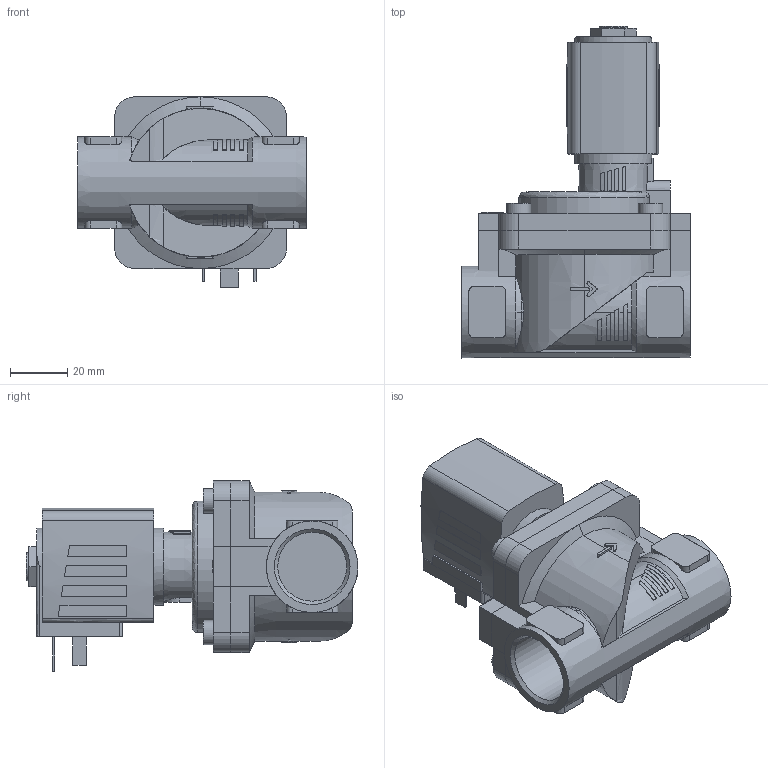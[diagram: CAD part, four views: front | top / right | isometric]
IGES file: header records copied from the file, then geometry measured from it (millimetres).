
Start section: Data from Parasolid IGES Translator 26.0.171, Copyright(c) 2006 Siemens PLM Software. All Rights Reserved.
Global section: file name: 6281-349581-2_2-Way_Solenoid_Valve__Servo-assisted__General_Purpose.igs; native system: By Siemens PLM Incorporated; preprocessor: XPlus GENERIC/IGES 26.0.171; author: Noname; organization: Noname; date: 20240820.171146; units: millimetre
Bounding box: 80 x 116 x 66.5 mm (x, y, z)
Surface area: 42231.7 mm2 (no closed solid volume)
Topology: 0 solids, 0 shells, 361 faces, 1876 edges, 1869 vertices
Faces by surface type: extrusion 235, revolution 126
